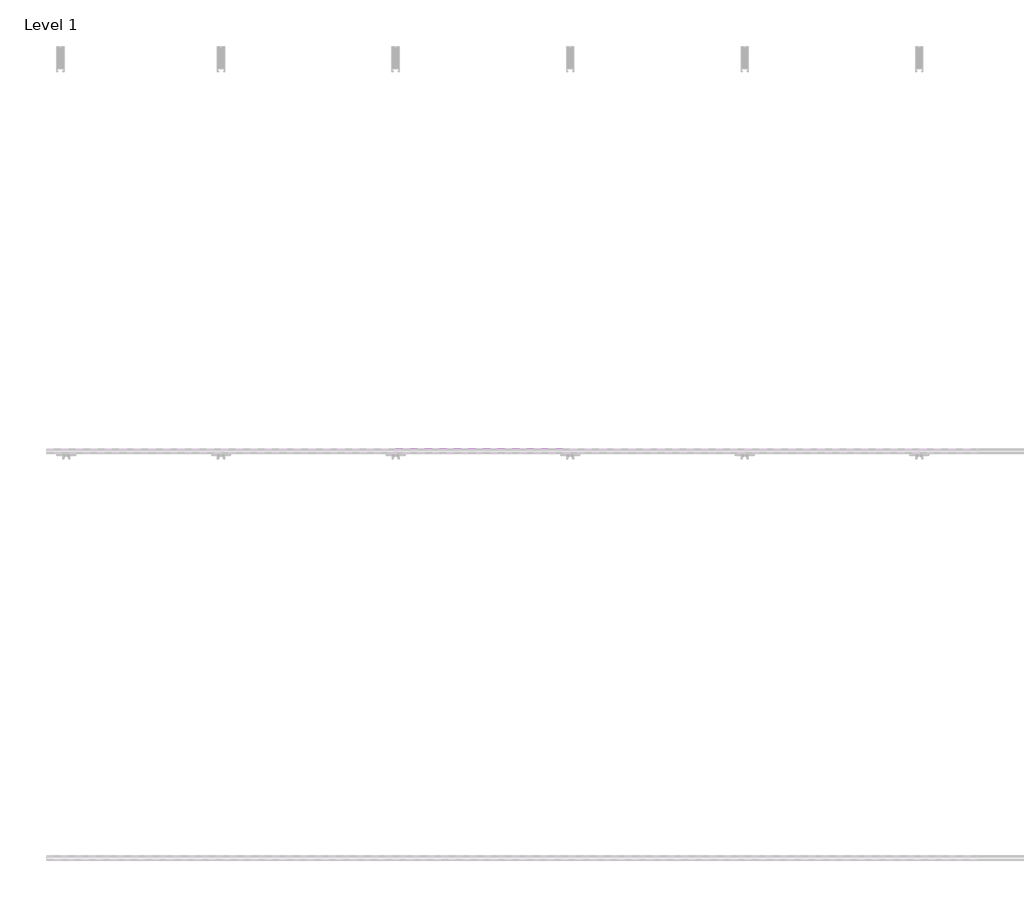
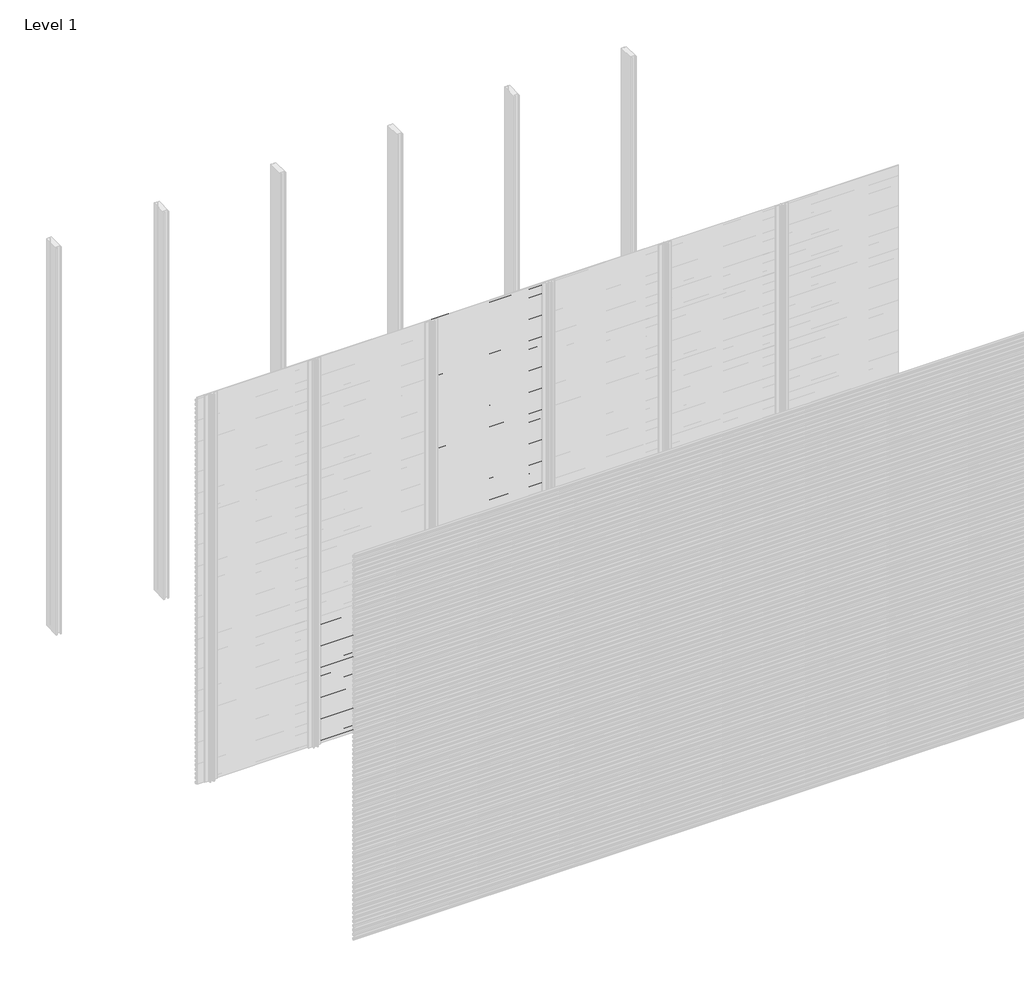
# One storey, part 7 of 96: 77 proxies.
"""IFC4 building model written with IfcOpenShell, lengths in millimetres."""

from ifc_helpers import new_model, si_unit, frame, origin, place, context, project, spatial, polyline, outline, extrude, element, save

model = new_model("IFC4")

# Units and contexts
model_context = context("Model", 3, world=origin())
ifc_project = project(units=[si_unit("LENGTHUNIT", "METRE", prefix="MILLI")], contexts=[model_context])

# Site, building, storey
site = spatial("IfcSite", under=ifc_project)
building = spatial("IfcBuilding", under=site)
storey = spatial("IfcBuildingStorey", under=building, Name="Level 1", Elevation=0.0)

# Proxies
placement = place(None, origin())
element("IfcBuildingElementProxy", 1, Name="Wall Sweeps", at=placement, inside=storey, context=model_context, shape_type="SweptSolid", body=[
    extrude(outline(polyline([(-53977.6, 940.4655033), (-53977.6, 926.1779188), (-53982.4114965, 923.4), (-53982.4114965, 924.6701706), (-53978.85, 926.7264016), (-53978.85, 939.7437382), (-53998.0, 950.8000799), (-53998.0, 965.7), (-53996.75, 965.7), (-53996.75, 951.5217609), (-53977.6, 940.4655033)])), frame((857.1428571, 0.0, 0.0), z_axis=(1.0, 0.0, 0.0), x_axis=(0.0, 1.0, 0.0)), (0.0, 0.0, 1.0), 857.1428571),
])
element("IfcBuildingElementProxy", 2, Name="Wall Sweeps", at=placement, inside=storey, context=model_context, shape_type="SweptSolid", body=[
    extrude(outline(polyline([(-53977.6, 907.1655033), (-53977.6, 892.8779188), (-53982.4114965, 890.1), (-53982.4114965, 891.3701706), (-53978.85, 893.4264016), (-53978.85, 906.4437382), (-53998.0, 917.5000799), (-53998.0, 932.4), (-53996.75, 932.4), (-53996.75, 918.2217609), (-53977.6, 907.1655033)])), frame((857.1428571, 0.0, 0.0), z_axis=(1.0, 0.0, 0.0), x_axis=(0.0, 1.0, 0.0)), (0.0, 0.0, 1.0), 857.1428571),
])
element("IfcBuildingElementProxy", 3, Name="Wall Sweeps", at=placement, inside=storey, context=model_context, shape_type="SweptSolid", body=[
    extrude(outline(polyline([(-53977.6, 873.8655033), (-53977.6, 859.5779188), (-53982.4114965, 856.8), (-53982.4114965, 858.0701706), (-53978.85, 860.1264016), (-53978.85, 873.1437382), (-53998.0, 884.2000799), (-53998.0, 899.1), (-53996.75, 899.1), (-53996.75, 884.9217609), (-53977.6, 873.8655033)])), frame((857.1428571, 0.0, 0.0), z_axis=(1.0, 0.0, 0.0), x_axis=(0.0, 1.0, 0.0)), (0.0, 0.0, 1.0), 857.1428571),
])
element("IfcBuildingElementProxy", 4, Name="Wall Sweeps", at=placement, inside=storey, context=model_context, shape_type="SweptSolid", body=[
    extrude(outline(polyline([(-53977.6, 840.5655033), (-53977.6, 826.2779188), (-53982.4114965, 823.5), (-53982.4114965, 824.7701706), (-53978.85, 826.8264016), (-53978.85, 839.8437382), (-53998.0, 850.9000799), (-53998.0, 865.8), (-53996.75, 865.8), (-53996.75, 851.6217609), (-53977.6, 840.5655033)])), frame((857.1428571, 0.0, 0.0), z_axis=(1.0, 0.0, 0.0), x_axis=(0.0, 1.0, 0.0)), (0.0, 0.0, 1.0), 857.1428571),
])
element("IfcBuildingElementProxy", 5, Name="Wall Sweeps", at=placement, inside=storey, context=model_context, shape_type="SweptSolid", body=[
    extrude(outline(polyline([(-53977.6, 807.2655033), (-53977.6, 792.9779188), (-53982.4114965, 790.2), (-53982.4114965, 791.4701706), (-53978.85, 793.5264016), (-53978.85, 806.5437382), (-53998.0, 817.6000799), (-53998.0, 832.5), (-53996.75, 832.5), (-53996.75, 818.3217609), (-53977.6, 807.2655033)])), frame((857.1428571, 0.0, 0.0), z_axis=(1.0, 0.0, 0.0), x_axis=(0.0, 1.0, 0.0)), (0.0, 0.0, 1.0), 857.1428571),
])
element("IfcBuildingElementProxy", 6, Name="Wall Sweeps", at=placement, inside=storey, context=model_context, shape_type="SweptSolid", body=[
    extrude(outline(polyline([(-53977.6, 773.9655033), (-53977.6, 759.6779188), (-53982.4114965, 756.9), (-53982.4114965, 758.1701706), (-53978.85, 760.2264016), (-53978.85, 773.2437382), (-53998.0, 784.3000799), (-53998.0, 799.2), (-53996.75, 799.2), (-53996.75, 785.0217609), (-53977.6, 773.9655033)])), frame((857.1428571, 0.0, 0.0), z_axis=(1.0, 0.0, 0.0), x_axis=(0.0, 1.0, 0.0)), (0.0, 0.0, 1.0), 857.1428571),
])
element("IfcBuildingElementProxy", 7, Name="Wall Sweeps", at=placement, inside=storey, context=model_context, shape_type="SweptSolid", body=[
    extrude(outline(polyline([(-53977.6, 740.6655033), (-53977.6, 726.3779188), (-53982.4114965, 723.6), (-53982.4114965, 724.8701706), (-53978.85, 726.9264016), (-53978.85, 739.9437382), (-53998.0, 751.0000799), (-53998.0, 765.9), (-53996.75, 765.9), (-53996.75, 751.7217609), (-53977.6, 740.6655033)])), frame((857.1428571, 0.0, 0.0), z_axis=(1.0, 0.0, 0.0), x_axis=(0.0, 1.0, 0.0)), (0.0, 0.0, 1.0), 857.1428571),
])
element("IfcBuildingElementProxy", 8, Name="Wall Sweeps", at=placement, inside=storey, context=model_context, shape_type="SweptSolid", body=[
    extrude(outline(polyline([(-53977.6, 707.3655033), (-53977.6, 693.0779188), (-53982.4114965, 690.3), (-53982.4114965, 691.5701706), (-53978.85, 693.6264016), (-53978.85, 706.6437382), (-53998.0, 717.7000799), (-53998.0, 732.6), (-53996.75, 732.6), (-53996.75, 718.4217609), (-53977.6, 707.3655033)])), frame((857.1428571, 0.0, 0.0), z_axis=(1.0, 0.0, 0.0), x_axis=(0.0, 1.0, 0.0)), (0.0, 0.0, 1.0), 857.1428571),
])
element("IfcBuildingElementProxy", 9, Name="Wall Sweeps", at=placement, inside=storey, context=model_context, shape_type="SweptSolid", body=[
    extrude(outline(polyline([(-53977.6, 674.0655033), (-53977.6, 659.7779188), (-53982.4114965, 657.0), (-53982.4114965, 658.2701706), (-53978.85, 660.3264016), (-53978.85, 673.3437382), (-53998.0, 684.4000799), (-53998.0, 699.3), (-53996.75, 699.3), (-53996.75, 685.1217609), (-53977.6, 674.0655033)])), frame((857.1428571, 0.0, 0.0), z_axis=(1.0, 0.0, 0.0), x_axis=(0.0, 1.0, 0.0)), (0.0, 0.0, 1.0), 857.1428571),
])
element("IfcBuildingElementProxy", 10, Name="Wall Sweeps", at=placement, inside=storey, context=model_context, shape_type="SweptSolid", body=[
    extrude(outline(polyline([(-53977.6, 640.7655033), (-53977.6, 626.4779188), (-53982.4114965, 623.7), (-53982.4114965, 624.9701706), (-53978.85, 627.0264016), (-53978.85, 640.0437382), (-53998.0, 651.1000799), (-53998.0, 666.0), (-53996.75, 666.0), (-53996.75, 651.8217609), (-53977.6, 640.7655033)])), frame((857.1428571, 0.0, 0.0), z_axis=(1.0, 0.0, 0.0), x_axis=(0.0, 1.0, 0.0)), (0.0, 0.0, 1.0), 857.1428571),
])
element("IfcBuildingElementProxy", 11, Name="Wall Sweeps", at=placement, inside=storey, context=model_context, shape_type="SweptSolid", body=[
    extrude(outline(polyline([(-53977.6, 607.4655033), (-53977.6, 593.1779188), (-53982.4114965, 590.4), (-53982.4114965, 591.6701706), (-53978.85, 593.7264016), (-53978.85, 606.7437382), (-53998.0, 617.8000799), (-53998.0, 632.7), (-53996.75, 632.7), (-53996.75, 618.5217609), (-53977.6, 607.4655033)])), frame((857.1428571, 0.0, 0.0), z_axis=(1.0, 0.0, 0.0), x_axis=(0.0, 1.0, 0.0)), (0.0, 0.0, 1.0), 857.1428571),
])
element("IfcBuildingElementProxy", 12, Name="Wall Sweeps", at=placement, inside=storey, context=model_context, shape_type="SweptSolid", body=[
    extrude(outline(polyline([(-53977.6, 574.1655033), (-53977.6, 559.8779188), (-53982.4114965, 557.1), (-53982.4114965, 558.3701706), (-53978.85, 560.4264016), (-53978.85, 573.4437382), (-53998.0, 584.5000799), (-53998.0, 599.4), (-53996.75, 599.4), (-53996.75, 585.2217609), (-53977.6, 574.1655033)])), frame((857.1428571, 0.0, 0.0), z_axis=(1.0, 0.0, 0.0), x_axis=(0.0, 1.0, 0.0)), (0.0, 0.0, 1.0), 857.1428571),
])
element("IfcBuildingElementProxy", 13, Name="Wall Sweeps", at=placement, inside=storey, context=model_context, shape_type="SweptSolid", body=[
    extrude(outline(polyline([(-53977.6, 540.8655033), (-53977.6, 526.5779188), (-53982.4114965, 523.8), (-53982.4114965, 525.0701706), (-53978.85, 527.1264016), (-53978.85, 540.1437382), (-53998.0, 551.2000799), (-53998.0, 566.1), (-53996.75, 566.1), (-53996.75, 551.9217609), (-53977.6, 540.8655033)])), frame((857.1428571, 0.0, 0.0), z_axis=(1.0, 0.0, 0.0), x_axis=(0.0, 1.0, 0.0)), (0.0, 0.0, 1.0), 857.1428571),
])
element("IfcBuildingElementProxy", 14, Name="Wall Sweeps", at=placement, inside=storey, context=model_context, shape_type="SweptSolid", body=[
    extrude(outline(polyline([(-53977.6, 507.5655033), (-53977.6, 493.2779188), (-53982.4114965, 490.5), (-53982.4114965, 491.7701706), (-53978.85, 493.8264016), (-53978.85, 506.8437382), (-53998.0, 517.9000799), (-53998.0, 532.8), (-53996.75, 532.8), (-53996.75, 518.6217609), (-53977.6, 507.5655033)])), frame((857.1428571, 0.0, 0.0), z_axis=(1.0, 0.0, 0.0), x_axis=(0.0, 1.0, 0.0)), (0.0, 0.0, 1.0), 857.1428571),
])
element("IfcBuildingElementProxy", 15, Name="Wall Sweeps", at=placement, inside=storey, context=model_context, shape_type="SweptSolid", body=[
    extrude(outline(polyline([(-53977.6, 474.2655033), (-53977.6, 459.9779188), (-53982.4114965, 457.2), (-53982.4114965, 458.4701706), (-53978.85, 460.5264016), (-53978.85, 473.5437382), (-53998.0, 484.6000799), (-53998.0, 499.5), (-53996.75, 499.5), (-53996.75, 485.3217609), (-53977.6, 474.2655033)])), frame((857.1428571, 0.0, 0.0), z_axis=(1.0, 0.0, 0.0), x_axis=(0.0, 1.0, 0.0)), (0.0, 0.0, 1.0), 857.1428571),
])
element("IfcBuildingElementProxy", 16, Name="Wall Sweeps", at=placement, inside=storey, context=model_context, shape_type="SweptSolid", body=[
    extrude(outline(polyline([(-53977.6, 440.9655033), (-53977.6, 426.6779188), (-53982.4114965, 423.9), (-53982.4114965, 425.1701706), (-53978.85, 427.2264016), (-53978.85, 440.2437382), (-53998.0, 451.3000799), (-53998.0, 466.2), (-53996.75, 466.2), (-53996.75, 452.0217609), (-53977.6, 440.9655033)])), frame((857.1428571, 0.0, 0.0), z_axis=(1.0, 0.0, 0.0), x_axis=(0.0, 1.0, 0.0)), (0.0, 0.0, 1.0), 857.1428571),
])
element("IfcBuildingElementProxy", 17, Name="Wall Sweeps", at=placement, inside=storey, context=model_context, shape_type="SweptSolid", body=[
    extrude(outline(polyline([(-53977.6, 407.6655033), (-53977.6, 393.3779188), (-53982.4114965, 390.6), (-53982.4114965, 391.8701706), (-53978.85, 393.9264016), (-53978.85, 406.9437382), (-53998.0, 418.0000799), (-53998.0, 432.9), (-53996.75, 432.9), (-53996.75, 418.7217609), (-53977.6, 407.6655033)])), frame((857.1428571, 0.0, 0.0), z_axis=(1.0, 0.0, 0.0), x_axis=(0.0, 1.0, 0.0)), (0.0, 0.0, 1.0), 857.1428571),
])
element("IfcBuildingElementProxy", 18, Name="Wall Sweeps", at=placement, inside=storey, context=model_context, shape_type="SweptSolid", body=[
    extrude(outline(polyline([(-53977.6, 374.3655033), (-53977.6, 360.0779188), (-53982.4114965, 357.3), (-53982.4114965, 358.5701706), (-53978.85, 360.6264016), (-53978.85, 373.6437382), (-53998.0, 384.7000799), (-53998.0, 399.6), (-53996.75, 399.6), (-53996.75, 385.4217609), (-53977.6, 374.3655033)])), frame((857.1428571, 0.0, 0.0), z_axis=(1.0, 0.0, 0.0), x_axis=(0.0, 1.0, 0.0)), (0.0, 0.0, 1.0), 857.1428571),
])
element("IfcBuildingElementProxy", 19, Name="Wall Sweeps", at=placement, inside=storey, context=model_context, shape_type="SweptSolid", body=[
    extrude(outline(polyline([(-53977.6, 341.0655033), (-53977.6, 326.7779188), (-53982.4114965, 324.0), (-53982.4114965, 325.2701706), (-53978.85, 327.3264016), (-53978.85, 340.3437382), (-53998.0, 351.4000799), (-53998.0, 366.3), (-53996.75, 366.3), (-53996.75, 352.1217609), (-53977.6, 341.0655033)])), frame((857.1428571, 0.0, 0.0), z_axis=(1.0, 0.0, 0.0), x_axis=(0.0, 1.0, 0.0)), (0.0, 0.0, 1.0), 857.1428571),
])
element("IfcBuildingElementProxy", 20, Name="Wall Sweeps", at=placement, inside=storey, context=model_context, shape_type="SweptSolid", body=[
    extrude(outline(polyline([(-53977.6, 307.7655033), (-53977.6, 293.4779188), (-53982.4114965, 290.7), (-53982.4114965, 291.9701706), (-53978.85, 294.0264016), (-53978.85, 307.0437382), (-53998.0, 318.1000799), (-53998.0, 333.0), (-53996.75, 333.0), (-53996.75, 318.8217609), (-53977.6, 307.7655033)])), frame((857.1428571, 0.0, 0.0), z_axis=(1.0, 0.0, 0.0), x_axis=(0.0, 1.0, 0.0)), (0.0, 0.0, 1.0), 857.1428571),
])
element("IfcBuildingElementProxy", 21, Name="Wall Sweeps", at=placement, inside=storey, context=model_context, shape_type="SweptSolid", body=[
    extrude(outline(polyline([(-53977.6, 274.4655033), (-53977.6, 260.1779188), (-53982.4114965, 257.4), (-53982.4114965, 258.6701706), (-53978.85, 260.7264016), (-53978.85, 273.7437382), (-53998.0, 284.8000799), (-53998.0, 299.7), (-53996.75, 299.7), (-53996.75, 285.5217609), (-53977.6, 274.4655033)])), frame((857.1428571, 0.0, 0.0), z_axis=(1.0, 0.0, 0.0), x_axis=(0.0, 1.0, 0.0)), (0.0, 0.0, 1.0), 857.1428571),
])
element("IfcBuildingElementProxy", 22, Name="Wall Sweeps", at=placement, inside=storey, context=model_context, shape_type="SweptSolid", body=[
    extrude(outline(polyline([(-53977.6, 241.1655033), (-53977.6, 226.8779188), (-53982.4114965, 224.1), (-53982.4114965, 225.3701706), (-53978.85, 227.4264016), (-53978.85, 240.4437382), (-53998.0, 251.5000799), (-53998.0, 266.4), (-53996.75, 266.4), (-53996.75, 252.2217609), (-53977.6, 241.1655033)])), frame((857.1428571, 0.0, 0.0), z_axis=(1.0, 0.0, 0.0), x_axis=(0.0, 1.0, 0.0)), (0.0, 0.0, 1.0), 857.1428571),
])
element("IfcBuildingElementProxy", 23, Name="Wall Sweeps", at=placement, inside=storey, context=model_context, shape_type="SweptSolid", body=[
    extrude(outline(polyline([(-53977.6, 207.8655033), (-53977.6, 193.5779188), (-53982.4114965, 190.8), (-53982.4114965, 192.0701706), (-53978.85, 194.1264016), (-53978.85, 207.1437382), (-53998.0, 218.2000799), (-53998.0, 233.1), (-53996.75, 233.1), (-53996.75, 218.9217609), (-53977.6, 207.8655033)])), frame((857.1428571, 0.0, 0.0), z_axis=(1.0, 0.0, 0.0), x_axis=(0.0, 1.0, 0.0)), (0.0, 0.0, 1.0), 857.1428571),
])
element("IfcBuildingElementProxy", 24, Name="Wall Sweeps", at=placement, inside=storey, context=model_context, shape_type="SweptSolid", body=[
    extrude(outline(polyline([(-53977.6, 174.5655033), (-53977.6, 160.2779188), (-53982.4114965, 157.5), (-53982.4114965, 158.7701706), (-53978.85, 160.8264016), (-53978.85, 173.8437382), (-53998.0, 184.9000799), (-53998.0, 199.8), (-53996.75, 199.8), (-53996.75, 185.6217609), (-53977.6, 174.5655033)])), frame((857.1428571, 0.0, 0.0), z_axis=(1.0, 0.0, 0.0), x_axis=(0.0, 1.0, 0.0)), (0.0, 0.0, 1.0), 857.1428571),
])
element("IfcBuildingElementProxy", 25, Name="Wall Sweeps", at=placement, inside=storey, context=model_context, shape_type="SweptSolid", body=[
    extrude(outline(polyline([(-53977.6, 141.2655033), (-53977.6, 126.9779188), (-53982.4114965, 124.2), (-53982.4114965, 125.4701706), (-53978.85, 127.5264016), (-53978.85, 140.5437382), (-53998.0, 151.6000799), (-53998.0, 166.5), (-53996.75, 166.5), (-53996.75, 152.3217609), (-53977.6, 141.2655033)])), frame((857.1428571, 0.0, 0.0), z_axis=(1.0, 0.0, 0.0), x_axis=(0.0, 1.0, 0.0)), (0.0, 0.0, 1.0), 857.1428571),
])
element("IfcBuildingElementProxy", 26, Name="Wall Sweeps", at=placement, inside=storey, context=model_context, shape_type="SweptSolid", body=[
    extrude(outline(polyline([(-53977.6, 107.9655033), (-53977.6, 93.6779188), (-53982.4114965, 90.9), (-53982.4114965, 92.1701706), (-53978.85, 94.2264016), (-53978.85, 107.2437382), (-53998.0, 118.3000799), (-53998.0, 133.2), (-53996.75, 133.2), (-53996.75, 119.0217609), (-53977.6, 107.9655033)])), frame((857.1428571, 0.0, 0.0), z_axis=(1.0, 0.0, 0.0), x_axis=(0.0, 1.0, 0.0)), (0.0, 0.0, 1.0), 857.1428571),
])
element("IfcBuildingElementProxy", 27, Name="Wall Sweeps", at=placement, inside=storey, context=model_context, shape_type="SweptSolid", body=[
    extrude(outline(polyline([(-53977.6, 74.6655033), (-53977.6, 60.3779188), (-53982.4114965, 57.6), (-53982.4114965, 58.8701706), (-53978.85, 60.9264016), (-53978.85, 73.9437382), (-53998.0, 85.0000799), (-53998.0, 99.9), (-53996.75, 99.9), (-53996.75, 85.7217609), (-53977.6, 74.6655033)])), frame((857.1428571, 0.0, 0.0), z_axis=(1.0, 0.0, 0.0), x_axis=(0.0, 1.0, 0.0)), (0.0, 0.0, 1.0), 857.1428571),
])
element("IfcBuildingElementProxy", 28, Name="Wall Sweeps", at=placement, inside=storey, context=model_context, shape_type="SweptSolid", body=[
    extrude(outline(polyline([(-53977.6, 41.3655033), (-53977.6, 27.0779188), (-53982.4114965, 24.3), (-53982.4114965, 25.5701706), (-53978.85, 27.6264016), (-53978.85, 40.6437382), (-53998.0, 51.7000799), (-53998.0, 66.6), (-53996.75, 66.6), (-53996.75, 52.4217609), (-53977.6, 41.3655033)])), frame((857.1428571, 0.0, 0.0), z_axis=(1.0, 0.0, 0.0), x_axis=(0.0, 1.0, 0.0)), (0.0, 0.0, 1.0), 857.1428571),
])
element("IfcBuildingElementProxy", 29, Name="Wall Sweeps", at=placement, inside=storey, context=model_context, shape_type="SweptSolid", body=[
    extrude(outline(polyline([(-53977.6, 8.0655033), (-53977.6, -6.2220812), (-53982.4114965, -9.0), (-53982.4114965, -7.7298294), (-53978.85, -5.6735984), (-53978.85, 7.3437382), (-53998.0, 18.4000799), (-53998.0, 33.3), (-53996.75, 33.3), (-53996.75, 19.1217609), (-53977.6, 8.0655033)])), frame((857.1428571, 0.0, 0.0), z_axis=(1.0, 0.0, 0.0), x_axis=(0.0, 1.0, 0.0)), (0.0, 0.0, 1.0), 857.1428571),
])
element("IfcBuildingElementProxy", 30, Name="Wall Sweeps", at=placement, inside=storey, context=model_context, shape_type="SweptSolid", body=[
    extrude(outline(polyline([(-53977.6, 2971.7655033), (-53977.6, 2957.4779188), (-53982.4114965, 2954.7), (-53982.4114965, 2955.9701706), (-53978.85, 2958.0264016), (-53978.85, 2971.0437382), (-53998.0, 2982.1000799), (-53998.0, 2997.0), (-53996.75, 2997.0), (-53996.75, 2982.8217609), (-53977.6, 2971.7655033)])), frame((1714.2857143, 0.0, 0.0), z_axis=(1.0, 0.0, 0.0), x_axis=(0.0, 1.0, 0.0)), (0.0, 0.0, 1.0), 857.1428571),
])
element("IfcBuildingElementProxy", 31, Name="Wall Sweeps", at=placement, inside=storey, context=model_context, shape_type="SweptSolid", body=[
    extrude(outline(polyline([(-53977.6, 2938.4655033), (-53977.6, 2924.1779188), (-53982.4114965, 2921.4), (-53982.4114965, 2922.6701706), (-53978.85, 2924.7264016), (-53978.85, 2937.7437382), (-53998.0, 2948.8000799), (-53998.0, 2963.7), (-53996.75, 2963.7), (-53996.75, 2949.5217609), (-53977.6, 2938.4655033)])), frame((1714.2857143, 0.0, 0.0), z_axis=(1.0, 0.0, 0.0), x_axis=(0.0, 1.0, 0.0)), (0.0, 0.0, 1.0), 857.1428571),
])
element("IfcBuildingElementProxy", 32, Name="Wall Sweeps", at=placement, inside=storey, context=model_context, shape_type="SweptSolid", body=[
    extrude(outline(polyline([(-53977.6, 2905.1655033), (-53977.6, 2890.8779188), (-53982.4114965, 2888.1), (-53982.4114965, 2889.3701706), (-53978.85, 2891.4264016), (-53978.85, 2904.4437382), (-53998.0, 2915.5000799), (-53998.0, 2930.4), (-53996.75, 2930.4), (-53996.75, 2916.2217609), (-53977.6, 2905.1655033)])), frame((1714.2857143, 0.0, 0.0), z_axis=(1.0, 0.0, 0.0), x_axis=(0.0, 1.0, 0.0)), (0.0, 0.0, 1.0), 857.1428571),
])
element("IfcBuildingElementProxy", 33, Name="Wall Sweeps", at=placement, inside=storey, context=model_context, shape_type="SweptSolid", body=[
    extrude(outline(polyline([(-53977.6, 2871.8655033), (-53977.6, 2857.5779188), (-53982.4114965, 2854.8), (-53982.4114965, 2856.0701706), (-53978.85, 2858.1264016), (-53978.85, 2871.1437382), (-53998.0, 2882.2000799), (-53998.0, 2897.1), (-53996.75, 2897.1), (-53996.75, 2882.9217609), (-53977.6, 2871.8655033)])), frame((1714.2857143, 0.0, 0.0), z_axis=(1.0, 0.0, 0.0), x_axis=(0.0, 1.0, 0.0)), (0.0, 0.0, 1.0), 857.1428571),
])
element("IfcBuildingElementProxy", 34, Name="Wall Sweeps", at=placement, inside=storey, context=model_context, shape_type="SweptSolid", body=[
    extrude(outline(polyline([(-53977.6, 2838.5655033), (-53977.6, 2824.2779188), (-53982.4114965, 2821.5), (-53982.4114965, 2822.7701706), (-53978.85, 2824.8264016), (-53978.85, 2837.8437382), (-53998.0, 2848.9000799), (-53998.0, 2863.8), (-53996.75, 2863.8), (-53996.75, 2849.6217609), (-53977.6, 2838.5655033)])), frame((1714.2857143, 0.0, 0.0), z_axis=(1.0, 0.0, 0.0), x_axis=(0.0, 1.0, 0.0)), (0.0, 0.0, 1.0), 857.1428571),
])
element("IfcBuildingElementProxy", 35, Name="Wall Sweeps", at=placement, inside=storey, context=model_context, shape_type="SweptSolid", body=[
    extrude(outline(polyline([(-53977.6, 2805.2655033), (-53977.6, 2790.9779188), (-53982.4114965, 2788.2), (-53982.4114965, 2789.4701706), (-53978.85, 2791.5264016), (-53978.85, 2804.5437382), (-53998.0, 2815.6000799), (-53998.0, 2830.5), (-53996.75, 2830.5), (-53996.75, 2816.3217609), (-53977.6, 2805.2655033)])), frame((1714.2857143, 0.0, 0.0), z_axis=(1.0, 0.0, 0.0), x_axis=(0.0, 1.0, 0.0)), (0.0, 0.0, 1.0), 857.1428571),
])
element("IfcBuildingElementProxy", 36, Name="Wall Sweeps", at=placement, inside=storey, context=model_context, shape_type="SweptSolid", body=[
    extrude(outline(polyline([(-53977.6, 2771.9655033), (-53977.6, 2757.6779188), (-53982.4114965, 2754.9), (-53982.4114965, 2756.1701706), (-53978.85, 2758.2264016), (-53978.85, 2771.2437382), (-53998.0, 2782.3000799), (-53998.0, 2797.2), (-53996.75, 2797.2), (-53996.75, 2783.0217609), (-53977.6, 2771.9655033)])), frame((1714.2857143, 0.0, 0.0), z_axis=(1.0, 0.0, 0.0), x_axis=(0.0, 1.0, 0.0)), (0.0, 0.0, 1.0), 857.1428571),
])
element("IfcBuildingElementProxy", 37, Name="Wall Sweeps", at=placement, inside=storey, context=model_context, shape_type="SweptSolid", body=[
    extrude(outline(polyline([(-53977.6, 2738.6655033), (-53977.6, 2724.3779188), (-53982.4114965, 2721.6), (-53982.4114965, 2722.8701706), (-53978.85, 2724.9264016), (-53978.85, 2737.9437382), (-53998.0, 2749.0000799), (-53998.0, 2763.9), (-53996.75, 2763.9), (-53996.75, 2749.7217609), (-53977.6, 2738.6655033)])), frame((1714.2857143, 0.0, 0.0), z_axis=(1.0, 0.0, 0.0), x_axis=(0.0, 1.0, 0.0)), (0.0, 0.0, 1.0), 857.1428571),
])
element("IfcBuildingElementProxy", 38, Name="Wall Sweeps", at=placement, inside=storey, context=model_context, shape_type="SweptSolid", body=[
    extrude(outline(polyline([(-53977.6, 2705.3655033), (-53977.6, 2691.0779188), (-53982.4114965, 2688.3), (-53982.4114965, 2689.5701706), (-53978.85, 2691.6264016), (-53978.85, 2704.6437382), (-53998.0, 2715.7000799), (-53998.0, 2730.6), (-53996.75, 2730.6), (-53996.75, 2716.4217609), (-53977.6, 2705.3655033)])), frame((1714.2857143, 0.0, 0.0), z_axis=(1.0, 0.0, 0.0), x_axis=(0.0, 1.0, 0.0)), (0.0, 0.0, 1.0), 857.1428571),
])
element("IfcBuildingElementProxy", 39, Name="Wall Sweeps", at=placement, inside=storey, context=model_context, shape_type="SweptSolid", body=[
    extrude(outline(polyline([(-53977.6, 2672.0655033), (-53977.6, 2657.7779188), (-53982.4114965, 2655.0), (-53982.4114965, 2656.2701706), (-53978.85, 2658.3264016), (-53978.85, 2671.3437382), (-53998.0, 2682.4000799), (-53998.0, 2697.3), (-53996.75, 2697.3), (-53996.75, 2683.1217609), (-53977.6, 2672.0655033)])), frame((1714.2857143, 0.0, 0.0), z_axis=(1.0, 0.0, 0.0), x_axis=(0.0, 1.0, 0.0)), (0.0, 0.0, 1.0), 857.1428571),
])
element("IfcBuildingElementProxy", 40, Name="Wall Sweeps", at=placement, inside=storey, context=model_context, shape_type="SweptSolid", body=[
    extrude(outline(polyline([(-53977.6, 2638.7655033), (-53977.6, 2624.4779188), (-53982.4114965, 2621.7), (-53982.4114965, 2622.9701706), (-53978.85, 2625.0264016), (-53978.85, 2638.0437382), (-53998.0, 2649.1000799), (-53998.0, 2664.0), (-53996.75, 2664.0), (-53996.75, 2649.8217609), (-53977.6, 2638.7655033)])), frame((1714.2857143, 0.0, 0.0), z_axis=(1.0, 0.0, 0.0), x_axis=(0.0, 1.0, 0.0)), (0.0, 0.0, 1.0), 857.1428571),
])
element("IfcBuildingElementProxy", 41, Name="Wall Sweeps", at=placement, inside=storey, context=model_context, shape_type="SweptSolid", body=[
    extrude(outline(polyline([(-53977.6, 2605.4655033), (-53977.6, 2591.1779188), (-53982.4114965, 2588.4), (-53982.4114965, 2589.6701706), (-53978.85, 2591.7264016), (-53978.85, 2604.7437382), (-53998.0, 2615.8000799), (-53998.0, 2630.7), (-53996.75, 2630.7), (-53996.75, 2616.5217609), (-53977.6, 2605.4655033)])), frame((1714.2857143, 0.0, 0.0), z_axis=(1.0, 0.0, 0.0), x_axis=(0.0, 1.0, 0.0)), (0.0, 0.0, 1.0), 857.1428571),
])
element("IfcBuildingElementProxy", 42, Name="Wall Sweeps", at=placement, inside=storey, context=model_context, shape_type="SweptSolid", body=[
    extrude(outline(polyline([(-53977.6, 2572.1655033), (-53977.6, 2557.8779188), (-53982.4114965, 2555.1), (-53982.4114965, 2556.3701706), (-53978.85, 2558.4264016), (-53978.85, 2571.4437382), (-53998.0, 2582.5000799), (-53998.0, 2597.4), (-53996.75, 2597.4), (-53996.75, 2583.2217609), (-53977.6, 2572.1655033)])), frame((1714.2857143, 0.0, 0.0), z_axis=(1.0, 0.0, 0.0), x_axis=(0.0, 1.0, 0.0)), (0.0, 0.0, 1.0), 857.1428571),
])
element("IfcBuildingElementProxy", 43, Name="Wall Sweeps", at=placement, inside=storey, context=model_context, shape_type="SweptSolid", body=[
    extrude(outline(polyline([(-53977.6, 2538.8655033), (-53977.6, 2524.5779188), (-53982.4114965, 2521.8), (-53982.4114965, 2523.0701706), (-53978.85, 2525.1264016), (-53978.85, 2538.1437382), (-53998.0, 2549.2000799), (-53998.0, 2564.1), (-53996.75, 2564.1), (-53996.75, 2549.9217609), (-53977.6, 2538.8655033)])), frame((1714.2857143, 0.0, 0.0), z_axis=(1.0, 0.0, 0.0), x_axis=(0.0, 1.0, 0.0)), (0.0, 0.0, 1.0), 857.1428571),
])
element("IfcBuildingElementProxy", 44, Name="Wall Sweeps", at=placement, inside=storey, context=model_context, shape_type="SweptSolid", body=[
    extrude(outline(polyline([(-53977.6, 2505.5655033), (-53977.6, 2491.2779188), (-53982.4114965, 2488.5), (-53982.4114965, 2489.7701706), (-53978.85, 2491.8264016), (-53978.85, 2504.8437382), (-53998.0, 2515.9000799), (-53998.0, 2530.8), (-53996.75, 2530.8), (-53996.75, 2516.6217609), (-53977.6, 2505.5655033)])), frame((1714.2857143, 0.0, 0.0), z_axis=(1.0, 0.0, 0.0), x_axis=(0.0, 1.0, 0.0)), (0.0, 0.0, 1.0), 857.1428571),
])
element("IfcBuildingElementProxy", 45, Name="Wall Sweeps", at=placement, inside=storey, context=model_context, shape_type="SweptSolid", body=[
    extrude(outline(polyline([(-53977.6, 2472.2655033), (-53977.6, 2457.9779188), (-53982.4114965, 2455.2), (-53982.4114965, 2456.4701706), (-53978.85, 2458.5264016), (-53978.85, 2471.5437382), (-53998.0, 2482.6000799), (-53998.0, 2497.5), (-53996.75, 2497.5), (-53996.75, 2483.3217609), (-53977.6, 2472.2655033)])), frame((1714.2857143, 0.0, 0.0), z_axis=(1.0, 0.0, 0.0), x_axis=(0.0, 1.0, 0.0)), (0.0, 0.0, 1.0), 857.1428571),
])
element("IfcBuildingElementProxy", 46, Name="Wall Sweeps", at=placement, inside=storey, context=model_context, shape_type="SweptSolid", body=[
    extrude(outline(polyline([(-53977.6, 2438.9655033), (-53977.6, 2424.6779188), (-53982.4114965, 2421.9), (-53982.4114965, 2423.1701706), (-53978.85, 2425.2264016), (-53978.85, 2438.2437382), (-53998.0, 2449.3000799), (-53998.0, 2464.2), (-53996.75, 2464.2), (-53996.75, 2450.0217609), (-53977.6, 2438.9655033)])), frame((1714.2857143, 0.0, 0.0), z_axis=(1.0, 0.0, 0.0), x_axis=(0.0, 1.0, 0.0)), (0.0, 0.0, 1.0), 857.1428571),
])
element("IfcBuildingElementProxy", 47, Name="Wall Sweeps", at=placement, inside=storey, context=model_context, shape_type="SweptSolid", body=[
    extrude(outline(polyline([(-53977.6, 2405.6655033), (-53977.6, 2391.3779188), (-53982.4114965, 2388.6), (-53982.4114965, 2389.8701706), (-53978.85, 2391.9264016), (-53978.85, 2404.9437382), (-53998.0, 2416.0000799), (-53998.0, 2430.9), (-53996.75, 2430.9), (-53996.75, 2416.7217609), (-53977.6, 2405.6655033)])), frame((1714.2857143, 0.0, 0.0), z_axis=(1.0, 0.0, 0.0), x_axis=(0.0, 1.0, 0.0)), (0.0, 0.0, 1.0), 857.1428571),
])
element("IfcBuildingElementProxy", 48, Name="Wall Sweeps", at=placement, inside=storey, context=model_context, shape_type="SweptSolid", body=[
    extrude(outline(polyline([(-53977.6, 2372.3655033), (-53977.6, 2358.0779188), (-53982.4114965, 2355.3), (-53982.4114965, 2356.5701706), (-53978.85, 2358.6264016), (-53978.85, 2371.6437382), (-53998.0, 2382.7000799), (-53998.0, 2397.6), (-53996.75, 2397.6), (-53996.75, 2383.4217609), (-53977.6, 2372.3655033)])), frame((1714.2857143, 0.0, 0.0), z_axis=(1.0, 0.0, 0.0), x_axis=(0.0, 1.0, 0.0)), (0.0, 0.0, 1.0), 857.1428571),
])
element("IfcBuildingElementProxy", 49, Name="Wall Sweeps", at=placement, inside=storey, context=model_context, shape_type="SweptSolid", body=[
    extrude(outline(polyline([(-53977.6, 2339.0655033), (-53977.6, 2324.7779188), (-53982.4114965, 2322.0), (-53982.4114965, 2323.2701706), (-53978.85, 2325.3264016), (-53978.85, 2338.3437382), (-53998.0, 2349.4000799), (-53998.0, 2364.3), (-53996.75, 2364.3), (-53996.75, 2350.1217609), (-53977.6, 2339.0655033)])), frame((1714.2857143, 0.0, 0.0), z_axis=(1.0, 0.0, 0.0), x_axis=(0.0, 1.0, 0.0)), (0.0, 0.0, 1.0), 857.1428571),
])
element("IfcBuildingElementProxy", 50, Name="Wall Sweeps", at=placement, inside=storey, context=model_context, shape_type="SweptSolid", body=[
    extrude(outline(polyline([(-53977.6, 2305.7655033), (-53977.6, 2291.4779188), (-53982.4114965, 2288.7), (-53982.4114965, 2289.9701706), (-53978.85, 2292.0264016), (-53978.85, 2305.0437382), (-53998.0, 2316.1000799), (-53998.0, 2331.0), (-53996.75, 2331.0), (-53996.75, 2316.8217609), (-53977.6, 2305.7655033)])), frame((1714.2857143, 0.0, 0.0), z_axis=(1.0, 0.0, 0.0), x_axis=(0.0, 1.0, 0.0)), (0.0, 0.0, 1.0), 857.1428571),
])
element("IfcBuildingElementProxy", 51, Name="Wall Sweeps", at=placement, inside=storey, context=model_context, shape_type="SweptSolid", body=[
    extrude(outline(polyline([(-53977.6, 2272.4655033), (-53977.6, 2258.1779188), (-53982.4114965, 2255.4), (-53982.4114965, 2256.6701706), (-53978.85, 2258.7264016), (-53978.85, 2271.7437382), (-53998.0, 2282.8000799), (-53998.0, 2297.7), (-53996.75, 2297.7), (-53996.75, 2283.5217609), (-53977.6, 2272.4655033)])), frame((1714.2857143, 0.0, 0.0), z_axis=(1.0, 0.0, 0.0), x_axis=(0.0, 1.0, 0.0)), (0.0, 0.0, 1.0), 857.1428571),
])
element("IfcBuildingElementProxy", 52, Name="Wall Sweeps", at=placement, inside=storey, context=model_context, shape_type="SweptSolid", body=[
    extrude(outline(polyline([(-53977.6, 2239.1655033), (-53977.6, 2224.8779188), (-53982.4114965, 2222.1), (-53982.4114965, 2223.3701706), (-53978.85, 2225.4264016), (-53978.85, 2238.4437382), (-53998.0, 2249.5000799), (-53998.0, 2264.4), (-53996.75, 2264.4), (-53996.75, 2250.2217609), (-53977.6, 2239.1655033)])), frame((1714.2857143, 0.0, 0.0), z_axis=(1.0, 0.0, 0.0), x_axis=(0.0, 1.0, 0.0)), (0.0, 0.0, 1.0), 857.1428571),
])
element("IfcBuildingElementProxy", 53, Name="Wall Sweeps", at=placement, inside=storey, context=model_context, shape_type="SweptSolid", body=[
    extrude(outline(polyline([(-53977.6, 2205.8655033), (-53977.6, 2191.5779188), (-53982.4114965, 2188.8), (-53982.4114965, 2190.0701706), (-53978.85, 2192.1264016), (-53978.85, 2205.1437382), (-53998.0, 2216.2000799), (-53998.0, 2231.1), (-53996.75, 2231.1), (-53996.75, 2216.9217609), (-53977.6, 2205.8655033)])), frame((1714.2857143, 0.0, 0.0), z_axis=(1.0, 0.0, 0.0), x_axis=(0.0, 1.0, 0.0)), (0.0, 0.0, 1.0), 857.1428571),
])
element("IfcBuildingElementProxy", 54, Name="Wall Sweeps", at=placement, inside=storey, context=model_context, shape_type="SweptSolid", body=[
    extrude(outline(polyline([(-53977.6, 2172.5655033), (-53977.6, 2158.2779188), (-53982.4114965, 2155.5), (-53982.4114965, 2156.7701706), (-53978.85, 2158.8264016), (-53978.85, 2171.8437382), (-53998.0, 2182.9000799), (-53998.0, 2197.8), (-53996.75, 2197.8), (-53996.75, 2183.6217609), (-53977.6, 2172.5655033)])), frame((1714.2857143, 0.0, 0.0), z_axis=(1.0, 0.0, 0.0), x_axis=(0.0, 1.0, 0.0)), (0.0, 0.0, 1.0), 857.1428571),
])
element("IfcBuildingElementProxy", 55, Name="Wall Sweeps", at=placement, inside=storey, context=model_context, shape_type="SweptSolid", body=[
    extrude(outline(polyline([(-53977.6, 2139.2655033), (-53977.6, 2124.9779188), (-53982.4114965, 2122.2), (-53982.4114965, 2123.4701706), (-53978.85, 2125.5264016), (-53978.85, 2138.5437382), (-53998.0, 2149.6000799), (-53998.0, 2164.5), (-53996.75, 2164.5), (-53996.75, 2150.3217609), (-53977.6, 2139.2655033)])), frame((1714.2857143, 0.0, 0.0), z_axis=(1.0, 0.0, 0.0), x_axis=(0.0, 1.0, 0.0)), (0.0, 0.0, 1.0), 857.1428571),
])
element("IfcBuildingElementProxy", 56, Name="Wall Sweeps", at=placement, inside=storey, context=model_context, shape_type="SweptSolid", body=[
    extrude(outline(polyline([(-53977.6, 2105.9655033), (-53977.6, 2091.6779188), (-53982.4114965, 2088.9), (-53982.4114965, 2090.1701706), (-53978.85, 2092.2264016), (-53978.85, 2105.2437382), (-53998.0, 2116.3000799), (-53998.0, 2131.2), (-53996.75, 2131.2), (-53996.75, 2117.0217609), (-53977.6, 2105.9655033)])), frame((1714.2857143, 0.0, 0.0), z_axis=(1.0, 0.0, 0.0), x_axis=(0.0, 1.0, 0.0)), (0.0, 0.0, 1.0), 857.1428571),
])
element("IfcBuildingElementProxy", 57, Name="Wall Sweeps", at=placement, inside=storey, context=model_context, shape_type="SweptSolid", body=[
    extrude(outline(polyline([(-53977.6, 2072.6655033), (-53977.6, 2058.3779188), (-53982.4114965, 2055.6), (-53982.4114965, 2056.8701706), (-53978.85, 2058.9264016), (-53978.85, 2071.9437382), (-53998.0, 2083.0000799), (-53998.0, 2097.9), (-53996.75, 2097.9), (-53996.75, 2083.7217609), (-53977.6, 2072.6655033)])), frame((1714.2857143, 0.0, 0.0), z_axis=(1.0, 0.0, 0.0), x_axis=(0.0, 1.0, 0.0)), (0.0, 0.0, 1.0), 857.1428571),
])
element("IfcBuildingElementProxy", 58, Name="Wall Sweeps", at=placement, inside=storey, context=model_context, shape_type="SweptSolid", body=[
    extrude(outline(polyline([(-53977.6, 2039.3655033), (-53977.6, 2025.0779188), (-53982.4114965, 2022.3), (-53982.4114965, 2023.5701706), (-53978.85, 2025.6264016), (-53978.85, 2038.6437382), (-53998.0, 2049.7000799), (-53998.0, 2064.6), (-53996.75, 2064.6), (-53996.75, 2050.4217609), (-53977.6, 2039.3655033)])), frame((1714.2857143, 0.0, 0.0), z_axis=(1.0, 0.0, 0.0), x_axis=(0.0, 1.0, 0.0)), (0.0, 0.0, 1.0), 857.1428571),
])
element("IfcBuildingElementProxy", 59, Name="Wall Sweeps", at=placement, inside=storey, context=model_context, shape_type="SweptSolid", body=[
    extrude(outline(polyline([(-53977.6, 2006.0655033), (-53977.6, 1991.7779188), (-53982.4114965, 1989.0), (-53982.4114965, 1990.2701706), (-53978.85, 1992.3264016), (-53978.85, 2005.3437382), (-53998.0, 2016.4000799), (-53998.0, 2031.3), (-53996.75, 2031.3), (-53996.75, 2017.1217609), (-53977.6, 2006.0655033)])), frame((1714.2857143, 0.0, 0.0), z_axis=(1.0, 0.0, 0.0), x_axis=(0.0, 1.0, 0.0)), (0.0, 0.0, 1.0), 857.1428571),
])
element("IfcBuildingElementProxy", 60, Name="Wall Sweeps", at=placement, inside=storey, context=model_context, shape_type="SweptSolid", body=[
    extrude(outline(polyline([(-53977.6, 1972.7655033), (-53977.6, 1958.4779188), (-53982.4114965, 1955.7), (-53982.4114965, 1956.9701706), (-53978.85, 1959.0264016), (-53978.85, 1972.0437382), (-53998.0, 1983.1000799), (-53998.0, 1998.0), (-53996.75, 1998.0), (-53996.75, 1983.8217609), (-53977.6, 1972.7655033)])), frame((1714.2857143, 0.0, 0.0), z_axis=(1.0, 0.0, 0.0), x_axis=(0.0, 1.0, 0.0)), (0.0, 0.0, 1.0), 857.1428571),
])
element("IfcBuildingElementProxy", 61, Name="Wall Sweeps", at=placement, inside=storey, context=model_context, shape_type="SweptSolid", body=[
    extrude(outline(polyline([(-53977.6, 1939.4655033), (-53977.6, 1925.1779188), (-53982.4114965, 1922.4), (-53982.4114965, 1923.6701706), (-53978.85, 1925.7264016), (-53978.85, 1938.7437382), (-53998.0, 1949.8000799), (-53998.0, 1964.7), (-53996.75, 1964.7), (-53996.75, 1950.5217609), (-53977.6, 1939.4655033)])), frame((1714.2857143, 0.0, 0.0), z_axis=(1.0, 0.0, 0.0), x_axis=(0.0, 1.0, 0.0)), (0.0, 0.0, 1.0), 857.1428571),
])
element("IfcBuildingElementProxy", 62, Name="Wall Sweeps", at=placement, inside=storey, context=model_context, shape_type="SweptSolid", body=[
    extrude(outline(polyline([(-53977.6, 1906.1655033), (-53977.6, 1891.8779188), (-53982.4114965, 1889.1), (-53982.4114965, 1890.3701706), (-53978.85, 1892.4264016), (-53978.85, 1905.4437382), (-53998.0, 1916.5000799), (-53998.0, 1931.4), (-53996.75, 1931.4), (-53996.75, 1917.2217609), (-53977.6, 1906.1655033)])), frame((1714.2857143, 0.0, 0.0), z_axis=(1.0, 0.0, 0.0), x_axis=(0.0, 1.0, 0.0)), (0.0, 0.0, 1.0), 857.1428571),
])
element("IfcBuildingElementProxy", 63, Name="Wall Sweeps", at=placement, inside=storey, context=model_context, shape_type="SweptSolid", body=[
    extrude(outline(polyline([(-53977.6, 1872.8655033), (-53977.6, 1858.5779188), (-53982.4114965, 1855.8), (-53982.4114965, 1857.0701706), (-53978.85, 1859.1264016), (-53978.85, 1872.1437382), (-53998.0, 1883.2000799), (-53998.0, 1898.1), (-53996.75, 1898.1), (-53996.75, 1883.9217609), (-53977.6, 1872.8655033)])), frame((1714.2857143, 0.0, 0.0), z_axis=(1.0, 0.0, 0.0), x_axis=(0.0, 1.0, 0.0)), (0.0, 0.0, 1.0), 857.1428571),
])
element("IfcBuildingElementProxy", 64, Name="Wall Sweeps", at=placement, inside=storey, context=model_context, shape_type="SweptSolid", body=[
    extrude(outline(polyline([(-53977.6, 1839.5655033), (-53977.6, 1825.2779188), (-53982.4114965, 1822.5), (-53982.4114965, 1823.7701706), (-53978.85, 1825.8264016), (-53978.85, 1838.8437382), (-53998.0, 1849.9000799), (-53998.0, 1864.8), (-53996.75, 1864.8), (-53996.75, 1850.6217609), (-53977.6, 1839.5655033)])), frame((1714.2857143, 0.0, 0.0), z_axis=(1.0, 0.0, 0.0), x_axis=(0.0, 1.0, 0.0)), (0.0, 0.0, 1.0), 857.1428571),
])
element("IfcBuildingElementProxy", 65, Name="Wall Sweeps", at=placement, inside=storey, context=model_context, shape_type="SweptSolid", body=[
    extrude(outline(polyline([(-53977.6, 1806.2655033), (-53977.6, 1791.9779188), (-53982.4114965, 1789.2), (-53982.4114965, 1790.4701706), (-53978.85, 1792.5264016), (-53978.85, 1805.5437382), (-53998.0, 1816.6000799), (-53998.0, 1831.5), (-53996.75, 1831.5), (-53996.75, 1817.3217609), (-53977.6, 1806.2655033)])), frame((1714.2857143, 0.0, 0.0), z_axis=(1.0, 0.0, 0.0), x_axis=(0.0, 1.0, 0.0)), (0.0, 0.0, 1.0), 857.1428571),
])
element("IfcBuildingElementProxy", 66, Name="Wall Sweeps", at=placement, inside=storey, context=model_context, shape_type="SweptSolid", body=[
    extrude(outline(polyline([(-53977.6, 1772.9655033), (-53977.6, 1758.6779188), (-53982.4114965, 1755.9), (-53982.4114965, 1757.1701706), (-53978.85, 1759.2264016), (-53978.85, 1772.2437382), (-53998.0, 1783.3000799), (-53998.0, 1798.2), (-53996.75, 1798.2), (-53996.75, 1784.0217609), (-53977.6, 1772.9655033)])), frame((1714.2857143, 0.0, 0.0), z_axis=(1.0, 0.0, 0.0), x_axis=(0.0, 1.0, 0.0)), (0.0, 0.0, 1.0), 857.1428571),
])
element("IfcBuildingElementProxy", 67, Name="Wall Sweeps", at=placement, inside=storey, context=model_context, shape_type="SweptSolid", body=[
    extrude(outline(polyline([(-53977.6, 1739.6655033), (-53977.6, 1725.3779188), (-53982.4114965, 1722.6), (-53982.4114965, 1723.8701706), (-53978.85, 1725.9264016), (-53978.85, 1738.9437382), (-53998.0, 1750.0000799), (-53998.0, 1764.9), (-53996.75, 1764.9), (-53996.75, 1750.7217609), (-53977.6, 1739.6655033)])), frame((1714.2857143, 0.0, 0.0), z_axis=(1.0, 0.0, 0.0), x_axis=(0.0, 1.0, 0.0)), (0.0, 0.0, 1.0), 857.1428571),
])
element("IfcBuildingElementProxy", 68, Name="Wall Sweeps", at=placement, inside=storey, context=model_context, shape_type="SweptSolid", body=[
    extrude(outline(polyline([(-53977.6, 1706.3655033), (-53977.6, 1692.0779188), (-53982.4114965, 1689.3), (-53982.4114965, 1690.5701706), (-53978.85, 1692.6264016), (-53978.85, 1705.6437382), (-53998.0, 1716.7000799), (-53998.0, 1731.6), (-53996.75, 1731.6), (-53996.75, 1717.4217609), (-53977.6, 1706.3655033)])), frame((1714.2857143, 0.0, 0.0), z_axis=(1.0, 0.0, 0.0), x_axis=(0.0, 1.0, 0.0)), (0.0, 0.0, 1.0), 857.1428571),
])
element("IfcBuildingElementProxy", 69, Name="Wall Sweeps", at=placement, inside=storey, context=model_context, shape_type="SweptSolid", body=[
    extrude(outline(polyline([(-53977.6, 1673.0655033), (-53977.6, 1658.7779188), (-53982.4114965, 1656.0), (-53982.4114965, 1657.2701706), (-53978.85, 1659.3264016), (-53978.85, 1672.3437382), (-53998.0, 1683.4000799), (-53998.0, 1698.3), (-53996.75, 1698.3), (-53996.75, 1684.1217609), (-53977.6, 1673.0655033)])), frame((1714.2857143, 0.0, 0.0), z_axis=(1.0, 0.0, 0.0), x_axis=(0.0, 1.0, 0.0)), (0.0, 0.0, 1.0), 857.1428571),
])
element("IfcBuildingElementProxy", 70, Name="Wall Sweeps", at=placement, inside=storey, context=model_context, shape_type="SweptSolid", body=[
    extrude(outline(polyline([(-53977.6, 1639.7655033), (-53977.6, 1625.4779188), (-53982.4114965, 1622.7), (-53982.4114965, 1623.9701706), (-53978.85, 1626.0264016), (-53978.85, 1639.0437382), (-53998.0, 1650.1000799), (-53998.0, 1665.0), (-53996.75, 1665.0), (-53996.75, 1650.8217609), (-53977.6, 1639.7655033)])), frame((1714.2857143, 0.0, 0.0), z_axis=(1.0, 0.0, 0.0), x_axis=(0.0, 1.0, 0.0)), (0.0, 0.0, 1.0), 857.1428571),
])
element("IfcBuildingElementProxy", 71, Name="Wall Sweeps", at=placement, inside=storey, context=model_context, shape_type="SweptSolid", body=[
    extrude(outline(polyline([(-53977.6, 1606.4655033), (-53977.6, 1592.1779188), (-53982.4114965, 1589.4), (-53982.4114965, 1590.6701706), (-53978.85, 1592.7264016), (-53978.85, 1605.7437382), (-53998.0, 1616.8000799), (-53998.0, 1631.7), (-53996.75, 1631.7), (-53996.75, 1617.5217609), (-53977.6, 1606.4655033)])), frame((1714.2857143, 0.0, 0.0), z_axis=(1.0, 0.0, 0.0), x_axis=(0.0, 1.0, 0.0)), (0.0, 0.0, 1.0), 857.1428571),
])
element("IfcBuildingElementProxy", 72, Name="Wall Sweeps", at=placement, inside=storey, context=model_context, shape_type="SweptSolid", body=[
    extrude(outline(polyline([(-53977.6, 1573.1655033), (-53977.6, 1558.8779188), (-53982.4114965, 1556.1), (-53982.4114965, 1557.3701706), (-53978.85, 1559.4264016), (-53978.85, 1572.4437382), (-53998.0, 1583.5000799), (-53998.0, 1598.4), (-53996.75, 1598.4), (-53996.75, 1584.2217609), (-53977.6, 1573.1655033)])), frame((1714.2857143, 0.0, 0.0), z_axis=(1.0, 0.0, 0.0), x_axis=(0.0, 1.0, 0.0)), (0.0, 0.0, 1.0), 857.1428571),
])
element("IfcBuildingElementProxy", 73, Name="Wall Sweeps", at=placement, inside=storey, context=model_context, shape_type="SweptSolid", body=[
    extrude(outline(polyline([(-53977.6, 1539.8655033), (-53977.6, 1525.5779188), (-53982.4114965, 1522.8), (-53982.4114965, 1524.0701706), (-53978.85, 1526.1264016), (-53978.85, 1539.1437382), (-53998.0, 1550.2000799), (-53998.0, 1565.1), (-53996.75, 1565.1), (-53996.75, 1550.9217609), (-53977.6, 1539.8655033)])), frame((1714.2857143, 0.0, 0.0), z_axis=(1.0, 0.0, 0.0), x_axis=(0.0, 1.0, 0.0)), (0.0, 0.0, 1.0), 857.1428571),
])
element("IfcBuildingElementProxy", 74, Name="Wall Sweeps", at=placement, inside=storey, context=model_context, shape_type="SweptSolid", body=[
    extrude(outline(polyline([(-53977.6, 1506.5655033), (-53977.6, 1492.2779188), (-53982.4114965, 1489.5), (-53982.4114965, 1490.7701706), (-53978.85, 1492.8264016), (-53978.85, 1505.8437382), (-53998.0, 1516.9000799), (-53998.0, 1531.8), (-53996.75, 1531.8), (-53996.75, 1517.6217609), (-53977.6, 1506.5655033)])), frame((1714.2857143, 0.0, 0.0), z_axis=(1.0, 0.0, 0.0), x_axis=(0.0, 1.0, 0.0)), (0.0, 0.0, 1.0), 857.1428571),
])
element("IfcBuildingElementProxy", 75, Name="Wall Sweeps", at=placement, inside=storey, context=model_context, shape_type="SweptSolid", body=[
    extrude(outline(polyline([(-53977.6, 1473.2655033), (-53977.6, 1458.9779188), (-53982.4114965, 1456.2), (-53982.4114965, 1457.4701706), (-53978.85, 1459.5264016), (-53978.85, 1472.5437382), (-53998.0, 1483.6000799), (-53998.0, 1498.5), (-53996.75, 1498.5), (-53996.75, 1484.3217609), (-53977.6, 1473.2655033)])), frame((1714.2857143, 0.0, 0.0), z_axis=(1.0, 0.0, 0.0), x_axis=(0.0, 1.0, 0.0)), (0.0, 0.0, 1.0), 857.1428571),
])
element("IfcBuildingElementProxy", 76, Name="Wall Sweeps", at=placement, inside=storey, context=model_context, shape_type="SweptSolid", body=[
    extrude(outline(polyline([(-53977.6, 1439.9655033), (-53977.6, 1425.6779188), (-53982.4114965, 1422.9), (-53982.4114965, 1424.1701706), (-53978.85, 1426.2264016), (-53978.85, 1439.2437382), (-53998.0, 1450.3000799), (-53998.0, 1465.2), (-53996.75, 1465.2), (-53996.75, 1451.0217609), (-53977.6, 1439.9655033)])), frame((1714.2857143, 0.0, 0.0), z_axis=(1.0, 0.0, 0.0), x_axis=(0.0, 1.0, 0.0)), (0.0, 0.0, 1.0), 857.1428571),
])
element("IfcBuildingElementProxy", 77, Name="Wall Sweeps", at=placement, inside=storey, context=model_context, shape_type="SweptSolid", body=[
    extrude(outline(polyline([(-53977.6, 1406.6655033), (-53977.6, 1392.3779188), (-53982.4114965, 1389.6), (-53982.4114965, 1390.8701706), (-53978.85, 1392.9264016), (-53978.85, 1405.9437382), (-53998.0, 1417.0000799), (-53998.0, 1431.9), (-53996.75, 1431.9), (-53996.75, 1417.7217609), (-53977.6, 1406.6655033)])), frame((1714.2857143, 0.0, 0.0), z_axis=(1.0, 0.0, 0.0), x_axis=(0.0, 1.0, 0.0)), (0.0, 0.0, 1.0), 857.1428571),
])

save(model, "model.ifc")
